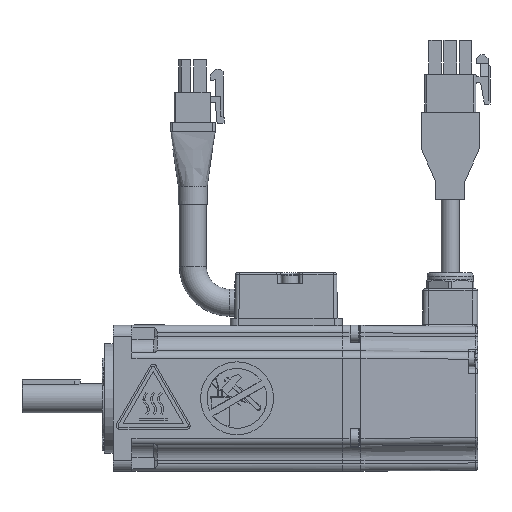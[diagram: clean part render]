
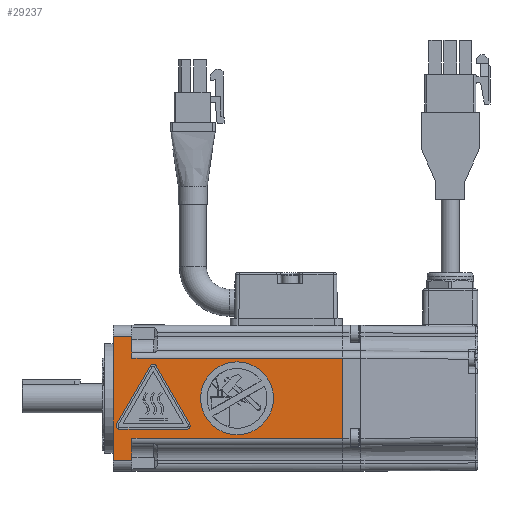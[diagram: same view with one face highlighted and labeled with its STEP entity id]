
A CAD part, front view. The second image highlights one B-rep face of the part: STEP entity #29237.
In plain terms, the highlighted planar face has unit normal (0, -1, 0) as drawn and (1, 0, 0) by its records, which use the part's own axes.
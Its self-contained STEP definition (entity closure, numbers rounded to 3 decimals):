
#3284=ORIENTED_EDGE('',*,*,#10989,.F.);
#3285=ORIENTED_EDGE('',*,*,#11154,.T.);
#3286=ORIENTED_EDGE('',*,*,#11140,.F.);
#3287=ORIENTED_EDGE('',*,*,#11155,.T.);
#3288=ORIENTED_EDGE('',*,*,#11156,.F.);
#3289=ORIENTED_EDGE('',*,*,#11157,.T.);
#3290=ORIENTED_EDGE('',*,*,#11121,.F.);
#3291=ORIENTED_EDGE('',*,*,#11158,.T.);
#10989=EDGE_CURVE('',#15024,#15025,#17715,.T.);
#11121=EDGE_CURVE('',#15126,#15127,#17775,.T.);
#11140=EDGE_CURVE('',#15142,#15143,#17780,.T.);
#11154=EDGE_CURVE('',#15024,#15143,#17787,.F.);
#11155=EDGE_CURVE('',#15142,#15150,#17788,.T.);
#11156=EDGE_CURVE('',#15151,#15150,#17789,.T.);
#11157=EDGE_CURVE('',#15151,#15127,#17790,.F.);
#11158=EDGE_CURVE('',#15126,#15025,#17791,.F.);
#15024=VERTEX_POINT('',#43390);
#15025=VERTEX_POINT('',#43392);
#15126=VERTEX_POINT('',#44348);
#15127=VERTEX_POINT('',#44349);
#15142=VERTEX_POINT('',#44387);
#15143=VERTEX_POINT('',#44389);
#15150=VERTEX_POINT('',#44417);
#15151=VERTEX_POINT('',#44419);
#17715=LINE('',#43391,#20577);
#17775=LINE('',#44347,#20637);
#17780=LINE('',#44388,#20642);
#17787=LINE('',#44415,#20649);
#17788=LINE('',#44416,#20650);
#17789=LINE('',#44418,#20651);
#17790=LINE('',#44420,#20652);
#17791=LINE('',#44421,#20653);
#20577=VECTOR('',#34277,1000.);
#20637=VECTOR('',#34495,1000.);
#20642=VECTOR('',#34538,1000.);
#20649=VECTOR('',#34571,1000.);
#20650=VECTOR('',#34572,1000.);
#20651=VECTOR('',#34573,1000.);
#20652=VECTOR('',#34574,1000.);
#20653=VECTOR('',#34575,1000.);
#23661=EDGE_LOOP('',(#3284,#3285,#3286,#3287,#3288,#3289,#3290,#3291));
#25937=FACE_BOUND('',#23661,.T.);
#28027=PLANE('',#31341);
#29237=ADVANCED_FACE('',(#25937),#28027,.T.);
#31341=AXIS2_PLACEMENT_3D('',#44414,#34569,#34570);
#34277=DIRECTION('',(0.,0.,-1.));
#34495=DIRECTION('',(0.,0.,-1.));
#34538=DIRECTION('',(0.,0.,-1.));
#34569=DIRECTION('',(1.,0.,0.));
#34570=DIRECTION('',(0.,1.,0.));
#34571=DIRECTION('',(0.,1.,0.));
#34572=DIRECTION('',(0.,-1.,0.));
#34573=DIRECTION('',(0.,0.,1.));
#34574=DIRECTION('',(0.,-1.,0.));
#34575=DIRECTION('',(0.,-1.,0.));
#43390=CARTESIAN_POINT('',(20.,63.5,11.));
#43391=CARTESIAN_POINT('',(20.,63.5,-20.));
#43392=CARTESIAN_POINT('',(20.,63.5,-11.));
#44347=CARTESIAN_POINT('',(20.,5.675,-20.));
#44348=CARTESIAN_POINT('',(20.,5.675,-11.));
#44349=CARTESIAN_POINT('',(20.,5.675,-17.));
#44387=CARTESIAN_POINT('',(20.,5.675,17.));
#44388=CARTESIAN_POINT('',(20.,5.675,-20.));
#44389=CARTESIAN_POINT('',(20.,5.675,11.));
#44414=CARTESIAN_POINT('',(20.,106.494,-20.));
#44415=CARTESIAN_POINT('',(20.,12.675,11.));
#44416=CARTESIAN_POINT('',(20.,106.494,17.));
#44417=CARTESIAN_POINT('',(20.,0.5,17.));
#44418=CARTESIAN_POINT('',(20.,0.5,-20.));
#44419=CARTESIAN_POINT('',(20.,0.5,-17.));
#44420=CARTESIAN_POINT('',(20.,106.494,-17.));
#44421=CARTESIAN_POINT('',(20.,64.35,-11.));
